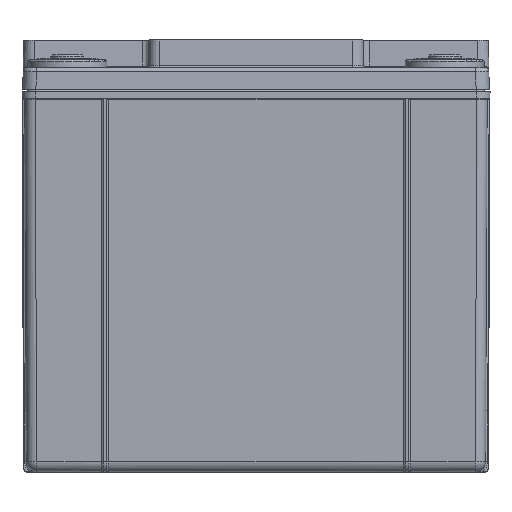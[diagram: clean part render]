
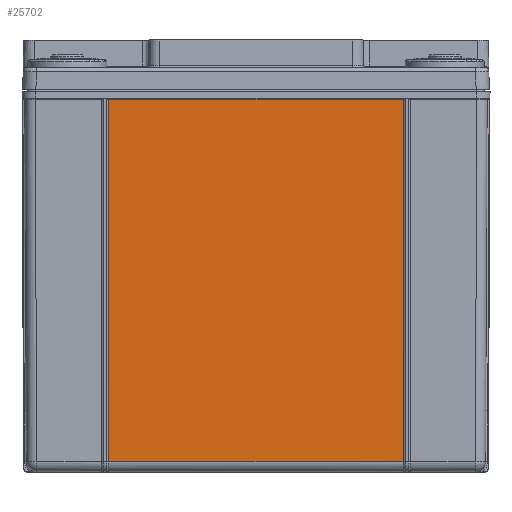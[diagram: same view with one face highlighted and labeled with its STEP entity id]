
A CAD part, top view. The second image highlights one B-rep face of the part: STEP entity #25702.
In plain terms, the highlighted planar face has unit normal (0, -0.004, 1).
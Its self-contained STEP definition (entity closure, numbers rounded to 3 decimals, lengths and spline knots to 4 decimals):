
#373 = CARTESIAN_POINT ( 'NONE',  ( 2.2399, -0.1089, 1.4377 ) ) ;
#3292 = LINE ( 'NONE', #27647, #91003 ) ;
#4391 = CARTESIAN_POINT ( 'NONE',  ( -2.2399, -0.1089, 1.4377 ) ) ;
#6144 = EDGE_CURVE ( 'NONE', #62874, #96514, #85738, .T. ) ;
#7945 = CARTESIAN_POINT ( 'NONE',  ( 2.2399, -0.1089, 1.4377 ) ) ;
#11494 = PLANE ( 'NONE',  #103969 ) ;
#12486 = VERTEX_POINT ( 'NONE', #29613 ) ;
#12946 = VERTEX_POINT ( 'NONE', #75814 ) ;
#17241 = CARTESIAN_POINT ( 'NONE',  ( -2.2399, -0.1089, 1.4377 ) ) ;
#19414 = EDGE_CURVE ( 'NONE', #96514, #96854, #3292, .T. ) ;
#20400 = DIRECTION ( 'NONE',  ( 0., -1., -0.004 ) ) ;
#21415 = VECTOR ( 'NONE', #20400, 39.3701 ) ;
#21769 = ORIENTED_EDGE ( 'NONE', *, *, #66540, .T. ) ;
#25702 = ADVANCED_FACE ( 'NONE', ( #27229 ), #11494, .T. ) ;
#26726 = CARTESIAN_POINT ( 'NONE',  ( -2.2398, -0.1089, 1.4377 ) ) ;
#27057 = EDGE_CURVE ( 'NONE', #60373, #62874, #43788, .T. ) ;
#27229 = FACE_OUTER_BOUND ( 'NONE', #91513, .T. ) ;
#27647 = CARTESIAN_POINT ( 'NONE',  ( 2.2707, -5.6247, 1.4137 ) ) ;
#29613 = CARTESIAN_POINT ( 'NONE',  ( 2.2399, -0.1089, 1.4377 ) ) ;
#31778 = CARTESIAN_POINT ( 'NONE',  ( 2.2398, -0.1089, 1.4377 ) ) ;
#32699 = ORIENTED_EDGE ( 'NONE', *, *, #45070, .T. ) ;
#33342 = CARTESIAN_POINT ( 'NONE',  ( 2.2398, -0.1089, 1.4377 ) ) ;
#34395 = CARTESIAN_POINT ( 'NONE',  ( 2.2399, -5.6247, 1.4137 ) ) ;
#36070 = ORIENTED_EDGE ( 'NONE', *, *, #19414, .T. ) ;
#36262 = DIRECTION ( 'NONE',  ( 1., 0., 0. ) ) ;
#40758 = ORIENTED_EDGE ( 'NONE', *, *, #63571, .T. ) ;
#41129 =( BOUNDED_CURVE ( )  B_SPLINE_CURVE ( 3, ( #7945, #373, #33342, #31778 ),
 .UNSPECIFIED., .F., .T. ) 
 B_SPLINE_CURVE_WITH_KNOTS ( ( 4, 4 ),
 ( 3.9226, 3.927 ),
 .UNSPECIFIED. ) 
 CURVE ( )  GEOMETRIC_REPRESENTATION_ITEM ( )  RATIONAL_B_SPLINE_CURVE ( ( 1., 1., 1., 1. ) ) 
 REPRESENTATION_ITEM ( '' )  );
#43788 =( BOUNDED_CURVE ( )  B_SPLINE_CURVE ( 3, ( #44914, #26726, #4391, #103258 ),
 .UNSPECIFIED., .F., .F. ) 
 B_SPLINE_CURVE_WITH_KNOTS ( ( 4, 4 ),
 ( 2.3562, 2.3605 ),
 .UNSPECIFIED. ) 
 CURVE ( )  GEOMETRIC_REPRESENTATION_ITEM ( )  RATIONAL_B_SPLINE_CURVE ( ( 1., 1., 1., 1. ) ) 
 REPRESENTATION_ITEM ( '' )  );
#43997 = CARTESIAN_POINT ( 'NONE',  ( -2.2398, -0.1089, 1.4377 ) ) ;
#44914 = CARTESIAN_POINT ( 'NONE',  ( -2.2398, -0.1089, 1.4377 ) ) ;
#45070 = EDGE_CURVE ( 'NONE', #12486, #12946, #41129, .T. ) ;
#52604 = CARTESIAN_POINT ( 'NONE',  ( -2.2398, -0.1089, 1.4377 ) ) ;
#58440 = DIRECTION ( 'NONE',  ( 0., 1., 0.004 ) ) ;
#60373 = VERTEX_POINT ( 'NONE', #43997 ) ;
#62874 = VERTEX_POINT ( 'NONE', #17241 ) ;
#63571 = EDGE_CURVE ( 'NONE', #96854, #12486, #76227, .T. ) ;
#64521 = VECTOR ( 'NONE', #58440, 39.3701 ) ;
#66540 = EDGE_CURVE ( 'NONE', #12946, #60373, #94217, .T. ) ;
#69508 = CARTESIAN_POINT ( 'NONE',  ( -2.2399, -5.6247, 1.4137 ) ) ;
#70405 = ORIENTED_EDGE ( 'NONE', *, *, #6144, .T. ) ;
#75814 = CARTESIAN_POINT ( 'NONE',  ( 2.2398, -0.1089, 1.4377 ) ) ;
#76227 = LINE ( 'NONE', #91409, #64521 ) ;
#76866 = DIRECTION ( 'NONE',  ( 0., -0.004, 1. ) ) ;
#77416 = DIRECTION ( 'NONE',  ( 0., -1., -0.004 ) ) ;
#79035 = CARTESIAN_POINT ( 'NONE',  ( -2.2399, -5.6247, 1.4137 ) ) ;
#83773 = VECTOR ( 'NONE', #85551, 39.3701 ) ;
#85551 = DIRECTION ( 'NONE',  ( -1., 0., 0. ) ) ;
#85738 = LINE ( 'NONE', #69508, #21415 ) ;
#91003 = VECTOR ( 'NONE', #36262, 39.3701 ) ;
#91409 = CARTESIAN_POINT ( 'NONE',  ( 2.2399, -5.78, 1.413 ) ) ;
#91513 = EDGE_LOOP ( 'NONE', ( #40758, #32699, #21769, #92212, #70405, #36070 ) ) ;
#92040 = CARTESIAN_POINT ( 'NONE',  ( -3.4915, -5.78, 1.413 ) ) ;
#92212 = ORIENTED_EDGE ( 'NONE', *, *, #27057, .T. ) ;
#94217 = LINE ( 'NONE', #52604, #83773 ) ;
#96514 = VERTEX_POINT ( 'NONE', #79035 ) ;
#96854 = VERTEX_POINT ( 'NONE', #34395 ) ;
#103258 = CARTESIAN_POINT ( 'NONE',  ( -2.2399, -0.1089, 1.4377 ) ) ;
#103969 = AXIS2_PLACEMENT_3D ( 'NONE', #92040, #76866, #77416 ) ;
